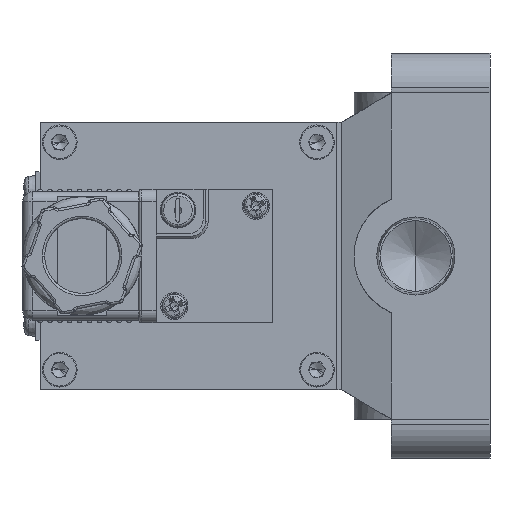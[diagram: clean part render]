
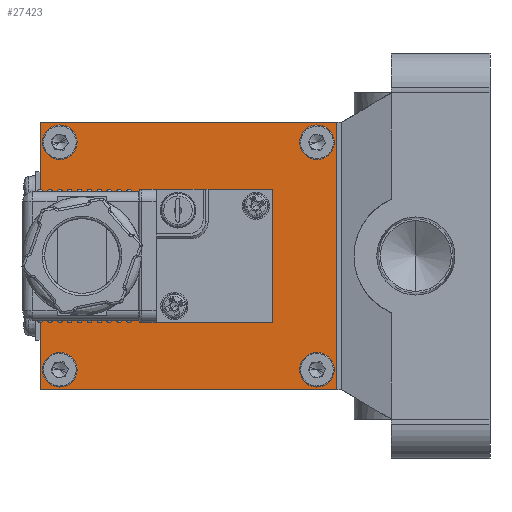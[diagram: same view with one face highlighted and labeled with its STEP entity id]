
A CAD part, left-side view. The second image highlights one B-rep face of the part: STEP entity #27423.
In plain terms, the highlighted planar face has unit normal (-1, 0, 0) as drawn and (1, 0, 0) by its records, which use the part's own axes.
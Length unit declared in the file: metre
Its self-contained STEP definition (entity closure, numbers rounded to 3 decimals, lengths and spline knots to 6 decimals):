
#694 = CIRCLE ( 'NONE', #18319, 0.002 ) ;
#806 = CARTESIAN_POINT ( 'NONE',  ( 0.051, 0.087, 0.025 ) ) ;
#1004 = LINE ( 'NONE', #8608, #13738 ) ;
#1254 = LINE ( 'NONE', #7251, #13250 ) ;
#1936 = CARTESIAN_POINT ( 'NONE',  ( 0.051, 0.035, -0.023 ) ) ;
#2110 = FACE_BOUND ( 'NONE', #4281, .T. ) ;
#2444 = EDGE_LOOP ( 'NONE', ( #2513, #5190 ) ) ;
#2513 = ORIENTED_EDGE ( 'NONE', *, *, #13564, .T. ) ;
#2764 = CIRCLE ( 'NONE', #19931, 0.002 ) ;
#2858 = FACE_BOUND ( 'NONE', #2444, .T. ) ;
#3528 = EDGE_LOOP ( 'NONE', ( #24503, #22889, #11811, #9563 ) ) ;
#3687 = CARTESIAN_POINT ( 'NONE',  ( 0.051, 0.035, 0.023 ) ) ;
#4233 = CARTESIAN_POINT ( 'NONE',  ( 0.051, 0.035, 0.023 ) ) ;
#4281 = EDGE_LOOP ( 'NONE', ( #14183, #22128 ) ) ;
#4330 = DIRECTION ( 'NONE',  ( 0., 0., -1. ) ) ;
#5084 = EDGE_CURVE ( 'NONE', #27084, #10699, #29376, .T. ) ;
#5190 = ORIENTED_EDGE ( 'NONE', *, *, #25860, .T. ) ;
#6097 = DIRECTION ( 'NONE',  ( 0., 0., -1. ) ) ;
#6424 = CARTESIAN_POINT ( 'NONE',  ( 0.051, 0.091, 0. ) ) ;
#6556 = ORIENTED_EDGE ( 'NONE', *, *, #26623, .T. ) ;
#6664 = VECTOR ( 'NONE', #28924, 1. ) ;
#6671 = DIRECTION ( 'NONE',  ( 0., 0., -1. ) ) ;
#6814 = VERTEX_POINT ( 'NONE', #11314 ) ;
#7251 = CARTESIAN_POINT ( 'NONE',  ( 0.051, 0.061, 0.027 ) ) ;
#7709 = CARTESIAN_POINT ( 'NONE',  ( 0.051, 0.087, -0.023 ) ) ;
#8320 = DIRECTION ( 'NONE',  ( -1., 0., 0. ) ) ;
#8353 = DIRECTION ( 'NONE',  ( 1., 0., 0. ) ) ;
#8487 = FACE_OUTER_BOUND ( 'NONE', #3528, .T. ) ;
#8608 = CARTESIAN_POINT ( 'NONE',  ( 0.051, 0.061, -0.027 ) ) ;
#8698 = EDGE_CURVE ( 'NONE', #10699, #27084, #19474, .T. ) ;
#9351 = AXIS2_PLACEMENT_3D ( 'NONE', #3687, #20433, #6097 ) ;
#9563 = ORIENTED_EDGE ( 'NONE', *, *, #14318, .T. ) ;
#9791 = DIRECTION ( 'NONE',  ( 1., 0., 0. ) ) ;
#10069 = VERTEX_POINT ( 'NONE', #27005 ) ;
#10111 = CARTESIAN_POINT ( 'NONE',  ( 0.051, 0.035, -0.023 ) ) ;
#10129 = DIRECTION ( 'NONE',  ( 0., 0., -1. ) ) ;
#10699 = VERTEX_POINT ( 'NONE', #25992 ) ;
#10828 = EDGE_CURVE ( 'NONE', #21178, #6814, #12308, .T. ) ;
#11314 = CARTESIAN_POINT ( 'NONE',  ( 0.051, 0.031, -0.027 ) ) ;
#11554 = EDGE_CURVE ( 'NONE', #29021, #23213, #26117, .T. ) ;
#11811 = ORIENTED_EDGE ( 'NONE', *, *, #11554, .T. ) ;
#11874 = EDGE_CURVE ( 'NONE', #6814, #29021, #1004, .T. ) ;
#12205 = EDGE_LOOP ( 'NONE', ( #28576, #25559 ) ) ;
#12308 = LINE ( 'NONE', #14571, #6664 ) ;
#12509 = DIRECTION ( 'NONE',  ( 0., 0., -1. ) ) ;
#12585 = EDGE_LOOP ( 'NONE', ( #20565, #6556 ) ) ;
#12754 = VERTEX_POINT ( 'NONE', #17866 ) ;
#13250 = VECTOR ( 'NONE', #19164, 1. ) ;
#13407 = CARTESIAN_POINT ( 'NONE',  ( 0.051, 0.091, 0.027 ) ) ;
#13564 = EDGE_CURVE ( 'NONE', #14336, #17056, #26025, .T. ) ;
#13738 = VECTOR ( 'NONE', #22940, 1. ) ;
#13741 = DIRECTION ( 'NONE',  ( -1., 0., 0. ) ) ;
#14183 = ORIENTED_EDGE ( 'NONE', *, *, #14187, .T. ) ;
#14187 = EDGE_CURVE ( 'NONE', #10069, #25542, #2764, .T. ) ;
#14318 = EDGE_CURVE ( 'NONE', #23213, #21178, #1254, .T. ) ;
#14336 = VERTEX_POINT ( 'NONE', #28922 ) ;
#14571 = CARTESIAN_POINT ( 'NONE',  ( 0.051, 0.031, 0. ) ) ;
#14619 = CARTESIAN_POINT ( 'NONE',  ( 0.051, 0.035, -0.021 ) ) ;
#15229 = EDGE_CURVE ( 'NONE', #12754, #27985, #26313, .T. ) ;
#15450 = CARTESIAN_POINT ( 'NONE',  ( 0.051, 0.031, 0.027 ) ) ;
#15535 = AXIS2_PLACEMENT_3D ( 'NONE', #15450, #8353, #25106 ) ;
#17056 = VERTEX_POINT ( 'NONE', #14619 ) ;
#17490 = CARTESIAN_POINT ( 'NONE',  ( 0.051, 0.031, 0.027 ) ) ;
#17546 = CARTESIAN_POINT ( 'NONE',  ( 0.051, 0.035, 0.025 ) ) ;
#17866 = CARTESIAN_POINT ( 'NONE',  ( 0.051, 0.035, 0.021 ) ) ;
#17947 = AXIS2_PLACEMENT_3D ( 'NONE', #10111, #26831, #12509 ) ;
#18319 = AXIS2_PLACEMENT_3D ( 'NONE', #22655, #8320, #25073 ) ;
#18664 = CIRCLE ( 'NONE', #19123, 0.002 ) ;
#18700 = DIRECTION ( 'NONE',  ( -1., 0., 0. ) ) ;
#19123 = AXIS2_PLACEMENT_3D ( 'NONE', #1936, #18700, #4330 ) ;
#19164 = DIRECTION ( 'NONE',  ( 0., -1., 0. ) ) ;
#19474 = CIRCLE ( 'NONE', #25161, 0.002 ) ;
#19780 = CARTESIAN_POINT ( 'NONE',  ( 0.051, 0.087, -0.021 ) ) ;
#19931 = AXIS2_PLACEMENT_3D ( 'NONE', #28092, #13741, #30498 ) ;
#20433 = DIRECTION ( 'NONE',  ( -1., 0., 0. ) ) ;
#20565 = ORIENTED_EDGE ( 'NONE', *, *, #15229, .T. ) ;
#20753 = DIRECTION ( 'NONE',  ( 0., 0., 1. ) ) ;
#21004 = DIRECTION ( 'NONE',  ( -1., 0., 0. ) ) ;
#21081 = AXIS2_PLACEMENT_3D ( 'NONE', #24126, #9791, #26510 ) ;
#21178 = VERTEX_POINT ( 'NONE', #17490 ) ;
#21219 = FACE_BOUND ( 'NONE', #12585, .T. ) ;
#22128 = ORIENTED_EDGE ( 'NONE', *, *, #24393, .T. ) ;
#22655 = CARTESIAN_POINT ( 'NONE',  ( 0.051, 0.087, 0.023 ) ) ;
#22695 = PLANE ( 'NONE',  #15535 ) ;
#22889 = ORIENTED_EDGE ( 'NONE', *, *, #11874, .T. ) ;
#22940 = DIRECTION ( 'NONE',  ( 0., 1., 0. ) ) ;
#23213 = VERTEX_POINT ( 'NONE', #13407 ) ;
#24126 = CARTESIAN_POINT ( 'NONE',  ( 0.051, 0.087, -0.023 ) ) ;
#24250 = CARTESIAN_POINT ( 'NONE',  ( 0.051, 0.091, -0.027 ) ) ;
#24393 = EDGE_CURVE ( 'NONE', #25542, #10069, #694, .T. ) ;
#24455 = DIRECTION ( 'NONE',  ( 1., 0., 0. ) ) ;
#24503 = ORIENTED_EDGE ( 'NONE', *, *, #10828, .T. ) ;
#25073 = DIRECTION ( 'NONE',  ( 0., 0., -1. ) ) ;
#25106 = DIRECTION ( 'NONE',  ( 0., 0., -1. ) ) ;
#25161 = AXIS2_PLACEMENT_3D ( 'NONE', #7709, #24455, #10129 ) ;
#25542 = VERTEX_POINT ( 'NONE', #806 ) ;
#25559 = ORIENTED_EDGE ( 'NONE', *, *, #5084, .F. ) ;
#25613 = AXIS2_PLACEMENT_3D ( 'NONE', #4233, #21004, #6671 ) ;
#25860 = EDGE_CURVE ( 'NONE', #17056, #14336, #18664, .T. ) ;
#25992 = CARTESIAN_POINT ( 'NONE',  ( 0.051, 0.087, -0.025 ) ) ;
#26025 = CIRCLE ( 'NONE', #17947, 0.002 ) ;
#26117 = LINE ( 'NONE', #6424, #26868 ) ;
#26313 = CIRCLE ( 'NONE', #25613, 0.002 ) ;
#26510 = DIRECTION ( 'NONE',  ( 0., 0., -1. ) ) ;
#26623 = EDGE_CURVE ( 'NONE', #27985, #12754, #28368, .T. ) ;
#26831 = DIRECTION ( 'NONE',  ( -1., 0., 0. ) ) ;
#26835 = FACE_BOUND ( 'NONE', #12205, .T. ) ;
#26868 = VECTOR ( 'NONE', #20753, 1. ) ;
#27005 = CARTESIAN_POINT ( 'NONE',  ( 0.051, 0.087, 0.021 ) ) ;
#27084 = VERTEX_POINT ( 'NONE', #19780 ) ;
#27423 = ADVANCED_FACE ( 'NONE', ( #21219, #2858, #2110, #26835, #8487 ), #22695, .T. ) ;
#27985 = VERTEX_POINT ( 'NONE', #17546 ) ;
#28092 = CARTESIAN_POINT ( 'NONE',  ( 0.051, 0.087, 0.023 ) ) ;
#28368 = CIRCLE ( 'NONE', #9351, 0.002 ) ;
#28576 = ORIENTED_EDGE ( 'NONE', *, *, #8698, .F. ) ;
#28922 = CARTESIAN_POINT ( 'NONE',  ( 0.051, 0.035, -0.025 ) ) ;
#28924 = DIRECTION ( 'NONE',  ( 0., 0., -1. ) ) ;
#29021 = VERTEX_POINT ( 'NONE', #24250 ) ;
#29376 = CIRCLE ( 'NONE', #21081, 0.002 ) ;
#30498 = DIRECTION ( 'NONE',  ( 0., 0., -1. ) ) ;
